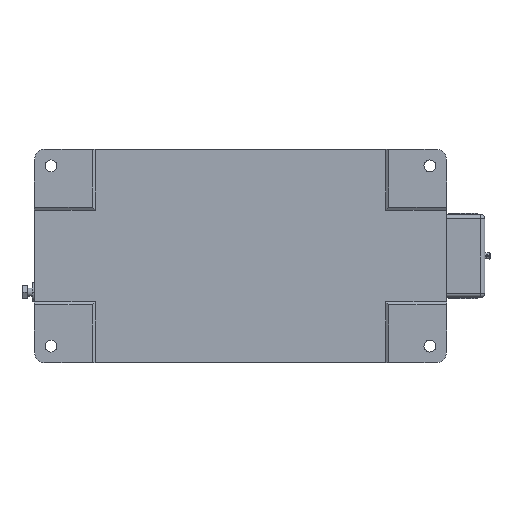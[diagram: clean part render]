
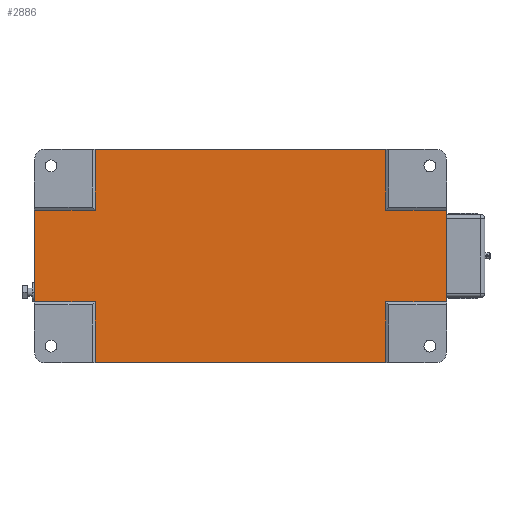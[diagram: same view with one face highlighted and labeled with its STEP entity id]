
A CAD part, front view. The second image highlights one B-rep face of the part: STEP entity #2886.
In plain terms, the highlighted planar face has unit normal (0, -1, 0).
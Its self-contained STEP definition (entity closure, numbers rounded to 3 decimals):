
#142 = VECTOR ( 'NONE', #3829, 1000. ) ;
#147 = DIRECTION ( 'NONE',  ( 0., 0., 1. ) ) ;
#191 = LINE ( 'NONE', #2803, #8123 ) ;
#202 = LINE ( 'NONE', #7046, #8907 ) ;
#506 = ORIENTED_EDGE ( 'NONE', *, *, #8972, .T. ) ;
#568 = EDGE_CURVE ( 'NONE', #6688, #6334, #5234, .T. ) ;
#752 = LINE ( 'NONE', #3298, #10080 ) ;
#915 = EDGE_CURVE ( 'NONE', #3140, #7489, #3256, .T. ) ;
#924 = VECTOR ( 'NONE', #3630, 1000. ) ;
#1058 = VECTOR ( 'NONE', #4722, 1000. ) ;
#1223 = CARTESIAN_POINT ( 'NONE',  ( -189.144, 2., -103. ) ) ;
#1448 = CARTESIAN_POINT ( 'NONE',  ( -189.144, 2., 103. ) ) ;
#1620 = PLANE ( 'NONE',  #10460 ) ;
#1656 = ORIENTED_EDGE ( 'NONE', *, *, #915, .T. ) ;
#2153 = VERTEX_POINT ( 'NONE', #1223 ) ;
#2192 = VERTEX_POINT ( 'NONE', #4052 ) ;
#2403 = CARTESIAN_POINT ( 'NONE',  ( -189.144, 2., 44.144 ) ) ;
#2474 = DIRECTION ( 'NONE',  ( 0., 1., 0. ) ) ;
#2505 = VERTEX_POINT ( 'NONE', #3005 ) ;
#2541 = EDGE_CURVE ( 'NONE', #5323, #2505, #10970, .T. ) ;
#2803 = CARTESIAN_POINT ( 'NONE',  ( -248., 2., -44.144 ) ) ;
#2886 = ADVANCED_FACE ( 'NONE', ( #6101 ), #1620, .F. ) ;
#2911 = VERTEX_POINT ( 'NONE', #3489 ) ;
#3005 = CARTESIAN_POINT ( 'NONE',  ( 150., 2., 44.144 ) ) ;
#3021 = EDGE_CURVE ( 'NONE', #5323, #2911, #752, .T. ) ;
#3121 = CARTESIAN_POINT ( 'NONE',  ( -248., 2., 44.144 ) ) ;
#3140 = VERTEX_POINT ( 'NONE', #9570 ) ;
#3171 = CARTESIAN_POINT ( 'NONE',  ( -248., 2., 44.144 ) ) ;
#3244 = DIRECTION ( 'NONE',  ( -1., 0., 0. ) ) ;
#3256 = LINE ( 'NONE', #4119, #8965 ) ;
#3298 = CARTESIAN_POINT ( 'NONE',  ( 91.144, 2., -103. ) ) ;
#3489 = CARTESIAN_POINT ( 'NONE',  ( 91.144, 2., 103. ) ) ;
#3499 = CARTESIAN_POINT ( 'NONE',  ( -248., 2., 44.144 ) ) ;
#3630 = DIRECTION ( 'NONE',  ( 0., 0., 1. ) ) ;
#3796 = ORIENTED_EDGE ( 'NONE', *, *, #10931, .T. ) ;
#3829 = DIRECTION ( 'NONE',  ( 1., 0., 0. ) ) ;
#4048 = DIRECTION ( 'NONE',  ( 0., 0., 1. ) ) ;
#4052 = CARTESIAN_POINT ( 'NONE',  ( 150., 2., -44.144 ) ) ;
#4119 = CARTESIAN_POINT ( 'NONE',  ( 91.144, 2., -103. ) ) ;
#4209 = EDGE_CURVE ( 'NONE', #7489, #2192, #191, .T. ) ;
#4238 = DIRECTION ( 'NONE',  ( -1., 0., 0. ) ) ;
#4275 = ORIENTED_EDGE ( 'NONE', *, *, #568, .F. ) ;
#4504 = VECTOR ( 'NONE', #7203, 1000. ) ;
#4722 = DIRECTION ( 'NONE',  ( -1., 0., 0. ) ) ;
#4981 = VERTEX_POINT ( 'NONE', #1448 ) ;
#5080 = LINE ( 'NONE', #7569, #8203 ) ;
#5234 = LINE ( 'NONE', #3499, #6677 ) ;
#5290 = DIRECTION ( 'NONE',  ( 1., 0., 0. ) ) ;
#5323 = VERTEX_POINT ( 'NONE', #8268 ) ;
#5689 = ORIENTED_EDGE ( 'NONE', *, *, #4209, .T. ) ;
#5748 = ORIENTED_EDGE ( 'NONE', *, *, #2541, .F. ) ;
#5957 = ORIENTED_EDGE ( 'NONE', *, *, #6293, .F. ) ;
#6101 = FACE_OUTER_BOUND ( 'NONE', #8590, .T. ) ;
#6142 = DIRECTION ( 'NONE',  ( 1., 0., 0. ) ) ;
#6293 = EDGE_CURVE ( 'NONE', #3140, #2153, #11046, .T. ) ;
#6324 = CARTESIAN_POINT ( 'NONE',  ( -248., 2., -44.144 ) ) ;
#6334 = VERTEX_POINT ( 'NONE', #2403 ) ;
#6377 = CARTESIAN_POINT ( 'NONE',  ( -248., 2., 44.144 ) ) ;
#6396 = LINE ( 'NONE', #9832, #924 ) ;
#6481 = ORIENTED_EDGE ( 'NONE', *, *, #6947, .F. ) ;
#6677 = VECTOR ( 'NONE', #5290, 1000. ) ;
#6688 = VERTEX_POINT ( 'NONE', #3121 ) ;
#6947 = EDGE_CURVE ( 'NONE', #2153, #9040, #6396, .T. ) ;
#6995 = DIRECTION ( 'NONE',  ( 0., 0., 1. ) ) ;
#6996 = ORIENTED_EDGE ( 'NONE', *, *, #3021, .T. ) ;
#7046 = CARTESIAN_POINT ( 'NONE',  ( -189.144, 2., -103. ) ) ;
#7049 = VERTEX_POINT ( 'NONE', #9249 ) ;
#7203 = DIRECTION ( 'NONE',  ( 0., 0., 1. ) ) ;
#7257 = LINE ( 'NONE', #6324, #142 ) ;
#7391 = DIRECTION ( 'NONE',  ( 1., 0., 0. ) ) ;
#7438 = VECTOR ( 'NONE', #3244, 1000. ) ;
#7489 = VERTEX_POINT ( 'NONE', #11058 ) ;
#7569 = CARTESIAN_POINT ( 'NONE',  ( 150., 2., 44.144 ) ) ;
#7655 = VECTOR ( 'NONE', #7391, 1000. ) ;
#7748 = DIRECTION ( 'NONE',  ( 0., 0., 1. ) ) ;
#8120 = LINE ( 'NONE', #6377, #4504 ) ;
#8123 = VECTOR ( 'NONE', #6142, 1000. ) ;
#8203 = VECTOR ( 'NONE', #7748, 1000. ) ;
#8255 = LINE ( 'NONE', #10798, #1058 ) ;
#8268 = CARTESIAN_POINT ( 'NONE',  ( 91.144, 2., 44.144 ) ) ;
#8427 = EDGE_CURVE ( 'NONE', #6334, #4981, #202, .T. ) ;
#8439 = ORIENTED_EDGE ( 'NONE', *, *, #8427, .F. ) ;
#8571 = CARTESIAN_POINT ( 'NONE',  ( -248., 2., 44.144 ) ) ;
#8590 = EDGE_LOOP ( 'NONE', ( #5748, #6996, #3796, #8439, #4275, #10843, #10645, #6481, #5957, #1656, #5689, #506 ) ) ;
#8709 = CARTESIAN_POINT ( 'NONE',  ( -189.144, 2., -44.144 ) ) ;
#8907 = VECTOR ( 'NONE', #147, 1000. ) ;
#8965 = VECTOR ( 'NONE', #6995, 1000. ) ;
#8972 = EDGE_CURVE ( 'NONE', #2192, #2505, #5080, .T. ) ;
#9040 = VERTEX_POINT ( 'NONE', #8709 ) ;
#9249 = CARTESIAN_POINT ( 'NONE',  ( -248., 2., -44.144 ) ) ;
#9570 = CARTESIAN_POINT ( 'NONE',  ( 91.144, 2., -103. ) ) ;
#9832 = CARTESIAN_POINT ( 'NONE',  ( -189.144, 2., -103. ) ) ;
#10071 = CARTESIAN_POINT ( 'NONE',  ( 91.144, 2., -103. ) ) ;
#10080 = VECTOR ( 'NONE', #4048, 1000. ) ;
#10460 = AXIS2_PLACEMENT_3D ( 'NONE', #8571, #2474, #4238 ) ;
#10645 = ORIENTED_EDGE ( 'NONE', *, *, #10749, .T. ) ;
#10689 = EDGE_CURVE ( 'NONE', #7049, #6688, #8120, .T. ) ;
#10749 = EDGE_CURVE ( 'NONE', #7049, #9040, #7257, .T. ) ;
#10798 = CARTESIAN_POINT ( 'NONE',  ( 91.144, 2., 103. ) ) ;
#10843 = ORIENTED_EDGE ( 'NONE', *, *, #10689, .F. ) ;
#10931 = EDGE_CURVE ( 'NONE', #2911, #4981, #8255, .T. ) ;
#10970 = LINE ( 'NONE', #3171, #7655 ) ;
#11046 = LINE ( 'NONE', #10071, #7438 ) ;
#11058 = CARTESIAN_POINT ( 'NONE',  ( 91.144, 2., -44.144 ) ) ;
